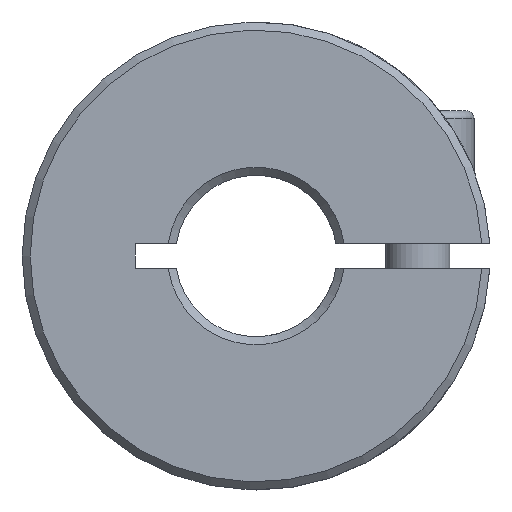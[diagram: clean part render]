
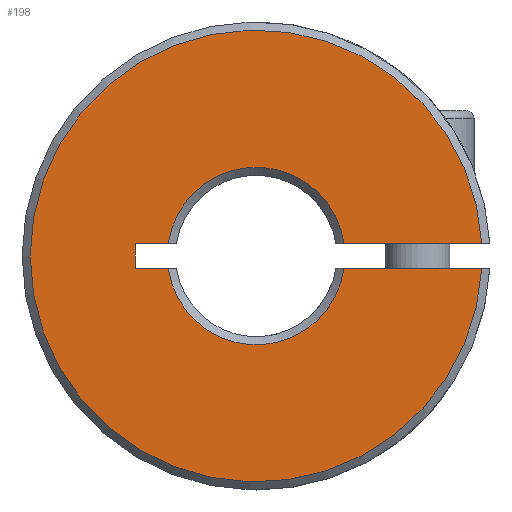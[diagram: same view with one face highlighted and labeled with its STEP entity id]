
A CAD part, front view. The second image highlights one B-rep face of the part: STEP entity #198.
In plain terms, the highlighted planar face has unit normal (0, -1, 0).
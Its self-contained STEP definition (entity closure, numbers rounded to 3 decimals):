
#198 = ADVANCED_FACE( '', ( #408 ), #409, .F. );
#408 = FACE_OUTER_BOUND( '', #656, .T. );
#409 = PLANE( '', #657 );
#656 = EDGE_LOOP( '', ( #1004, #1005, #1006, #1007, #1008, #1009, #1010, #1011 ) );
#657 = AXIS2_PLACEMENT_3D( '', #1012, #1013, #1014 );
#1004 = ORIENTED_EDGE( '', *, *, #1435, .T. );
#1005 = ORIENTED_EDGE( '', *, *, #1436, .T. );
#1006 = ORIENTED_EDGE( '', *, *, #1437, .F. );
#1007 = ORIENTED_EDGE( '', *, *, #1438, .T. );
#1008 = ORIENTED_EDGE( '', *, *, #1439, .F. );
#1009 = ORIENTED_EDGE( '', *, *, #1361, .F. );
#1010 = ORIENTED_EDGE( '', *, *, #1440, .T. );
#1011 = ORIENTED_EDGE( '', *, *, #1441, .T. );
#1012 = CARTESIAN_POINT( '', ( 0., -45., 0. ) );
#1013 = DIRECTION( '', ( 0., 1., 0. ) );
#1014 = DIRECTION( '', ( 0., 0., 1. ) );
#1361 = EDGE_CURVE( '', #1576, #1577, #1578, .T. );
#1435 = EDGE_CURVE( '', #1692, #1693, #1694, .T. );
#1436 = EDGE_CURVE( '', #1693, #1695, #1696, .F. );
#1437 = EDGE_CURVE( '', #1697, #1695, #1698, .T. );
#1438 = EDGE_CURVE( '', #1697, #1699, #1700, .T. );
#1439 = EDGE_CURVE( '', #1577, #1699, #1701, .T. );
#1440 = EDGE_CURVE( '', #1576, #1702, #1703, .T. );
#1441 = EDGE_CURVE( '', #1702, #1692, #1704, .T. );
#1576 = VERTEX_POINT( '', #1881 );
#1577 = VERTEX_POINT( '', #1882 );
#1578 = LINE( '', #1883, #1884 );
#1692 = VERTEX_POINT( '', #2453 );
#1693 = VERTEX_POINT( '', #2454 );
#1694 = LINE( '', #2455, #2456 );
#1695 = VERTEX_POINT( '', #2457 );
#1696 = CIRCLE( '', #2458, 14. );
#1697 = VERTEX_POINT( '', #2459 );
#1698 = LINE( '', #2460, #2461 );
#1699 = VERTEX_POINT( '', #2462 );
#1700 = CIRCLE( '', #2463, 5.5 );
#1701 = LINE( '', #2464, #2465 );
#1702 = VERTEX_POINT( '', #2466 );
#1703 = LINE( '', #2467, #2468 );
#1704 = CIRCLE( '', #2469, 5.5 );
#1881 = CARTESIAN_POINT( '', ( -7.5, -45., 0.75 ) );
#1882 = CARTESIAN_POINT( '', ( -7.5, -45., -0.75 ) );
#1883 = CARTESIAN_POINT( '', ( -7.5, -45., 0. ) );
#1884 = VECTOR( '', #2667, 1000. );
#2453 = CARTESIAN_POINT( '', ( 5.449, -45., 0.75 ) );
#2454 = CARTESIAN_POINT( '', ( 13.98, -45., 0.75 ) );
#2455 = CARTESIAN_POINT( '', ( 0., -45., 0.75 ) );
#2456 = VECTOR( '', #2744, 1000. );
#2457 = CARTESIAN_POINT( '', ( 13.98, -45., -0.75 ) );
#2458 = AXIS2_PLACEMENT_3D( '', #2745, #2746, #2747 );
#2459 = CARTESIAN_POINT( '', ( 5.449, -45., -0.75 ) );
#2460 = CARTESIAN_POINT( '', ( 0., -45., -0.75 ) );
#2461 = VECTOR( '', #2748, 1000. );
#2462 = CARTESIAN_POINT( '', ( -5.449, -45., -0.75 ) );
#2463 = AXIS2_PLACEMENT_3D( '', #2749, #2750, #2751 );
#2464 = CARTESIAN_POINT( '', ( 0., -45., -0.75 ) );
#2465 = VECTOR( '', #2752, 1000. );
#2466 = CARTESIAN_POINT( '', ( -5.449, -45., 0.75 ) );
#2467 = CARTESIAN_POINT( '', ( 0., -45., 0.75 ) );
#2468 = VECTOR( '', #2753, 1000. );
#2469 = AXIS2_PLACEMENT_3D( '', #2754, #2755, #2756 );
#2667 = DIRECTION( '', ( 0., 0., -1. ) );
#2744 = DIRECTION( '', ( 1., 0., 0. ) );
#2745 = CARTESIAN_POINT( '', ( 0., -45., 0. ) );
#2746 = DIRECTION( '', ( 0., 1., 0. ) );
#2747 = DIRECTION( '', ( 0., 0., 1. ) );
#2748 = DIRECTION( '', ( 1., 0., 0. ) );
#2749 = CARTESIAN_POINT( '', ( 0., -45., 0. ) );
#2750 = DIRECTION( '', ( 0., 1., 0. ) );
#2751 = DIRECTION( '', ( 0., 0., 1. ) );
#2752 = DIRECTION( '', ( 1., 0., 0. ) );
#2753 = DIRECTION( '', ( 1., 0., 0. ) );
#2754 = CARTESIAN_POINT( '', ( 0., -45., 0. ) );
#2755 = DIRECTION( '', ( 0., 1., 0. ) );
#2756 = DIRECTION( '', ( 0., 0., 1. ) );
